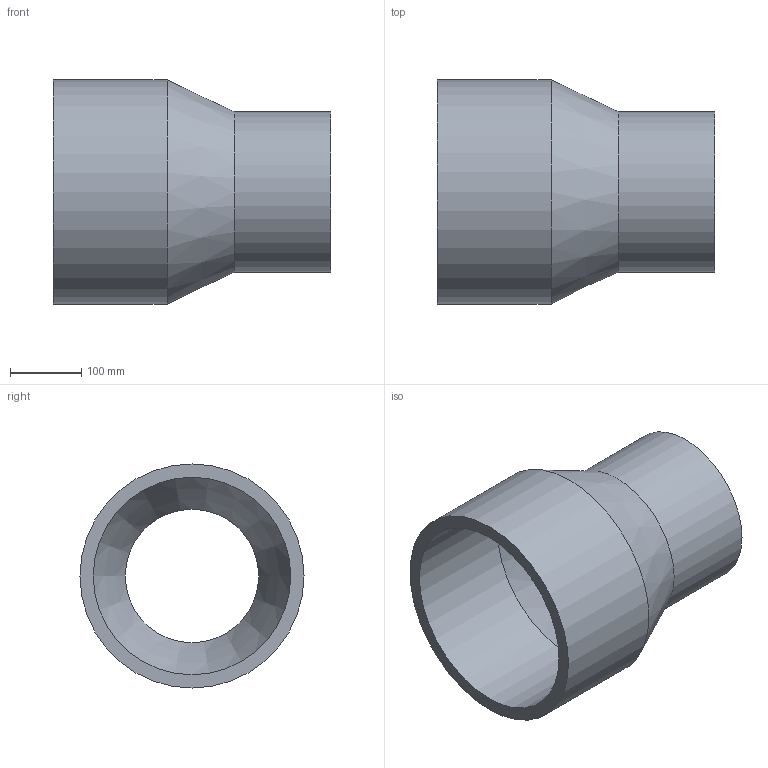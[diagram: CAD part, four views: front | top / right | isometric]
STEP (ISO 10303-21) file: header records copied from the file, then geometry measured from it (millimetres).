
FILE_DESCRIPTION(('Beschreibung'),'1');
FILE_NAME('V:/Ziel/25.91.03.063_SDR_17_PE100_315_225.STP', '2014-09-15T05:46:34',('Author'), ('Organization'), 'KCM Version 1.1.794.0', 'Kubotek KeyCreator', 'Authorization');
FILE_SCHEMA(('CONFIG_CONTROL_DESIGN'));
Length unit declared in the file: millimetre
Bounding box: 390 x 315 x 315 mm (x, y, z)
Volume: 5962058.3 mm3; surface area: 667179.9 mm2
Topology: 1 solids, 1 shells, 8 faces, 22 edges, 24 vertices
Faces by surface type: cylinder 4, cone 2, plane 2
Full cylindrical faces by diameter (mm): 187.6 x1, 225 x1, 277.6 x1, 315 x1
Entity records: 321 total; most frequent: DIRECTION 48, CARTESIAN_POINT 39, ORIENTED_EDGE 28, AXIS2_PLACEMENT_3D 17, EDGE_CURVE 14, VECTOR 14, LINE 14, EDGE_LOOP 10
